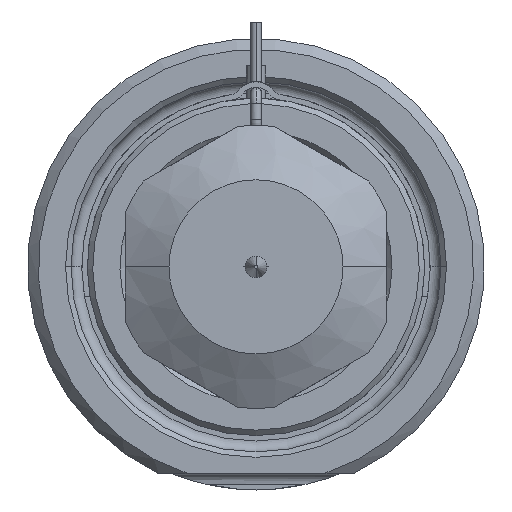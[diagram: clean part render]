
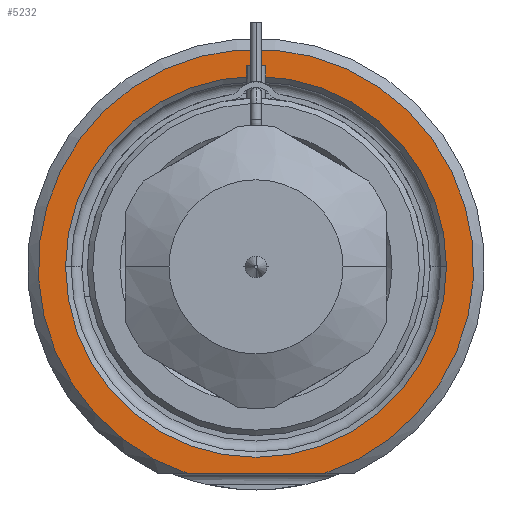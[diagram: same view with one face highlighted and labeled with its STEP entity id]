
A CAD part, front view. The second image highlights one B-rep face of the part: STEP entity #5232.
In plain terms, the highlighted planar face has unit normal (0, -1, 0).
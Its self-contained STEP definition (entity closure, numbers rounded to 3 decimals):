
#1332=CARTESIAN_POINT('',(0.,0.,0.));
#1333=DIRECTION('',(0.,-1.,0.));
#1334=DIRECTION('',(0.312,0.,-0.95));
#1335=AXIS2_PLACEMENT_3D('',#1332,#1333,#1334);
#1356=DIRECTION('',(1.,0.,0.));
#1357=VECTOR('',#1356,12.49);
#1358=CARTESIAN_POINT('',(-6.245,0.,-19.));
#1359=LINE('',#1358,#1357);
#1360=CARTESIAN_POINT('',(0.,0.,0.));
#1361=DIRECTION('',(0.,1.,0.));
#1362=DIRECTION('',(-1.,0.,0.));
#1363=AXIS2_PLACEMENT_3D('',#1360,#1361,#1362);
#1365=CARTESIAN_POINT('',(0.,0.,0.));
#1366=DIRECTION('',(0.,1.,0.));
#1367=DIRECTION('',(1.,0.,0.));
#1368=AXIS2_PLACEMENT_3D('',#1365,#1366,#1367);
#3404=CARTESIAN_POINT('',(-17.5,0.,0.));
#3405=CARTESIAN_POINT('',(17.5,0.,0.));
#3406=VERTEX_POINT('',#3404);
#3407=VERTEX_POINT('',#3405);
#3448=CARTESIAN_POINT('',(-6.245,0.,-19.));
#3449=CARTESIAN_POINT('',(6.245,0.,-19.));
#3450=VERTEX_POINT('',#3448);
#3451=VERTEX_POINT('',#3449);
#5217=CARTESIAN_POINT('',(0.,0.,0.));
#5218=DIRECTION('',(0.,-1.,0.));
#5219=DIRECTION('',(1.,0.,0.));
#5220=AXIS2_PLACEMENT_3D('',#5217,#5218,#5219);
#5221=PLANE('',#5220);
#5222=ORIENTED_EDGE('',*,*,#5149,.F.);
#5223=ORIENTED_EDGE('',*,*,#5209,.F.);
#5224=EDGE_LOOP('',(#5222,#5223));
#5225=FACE_OUTER_BOUND('',#5224,.F.);
#5227=ORIENTED_EDGE('',*,*,#5226,.F.);
#5229=ORIENTED_EDGE('',*,*,#5228,.F.);
#5230=EDGE_LOOP('',(#5227,#5229));
#5231=FACE_BOUND('',#5230,.F.);
#5232=ADVANCED_FACE('',(#5225,#5231),#5221,.T.);
#1336=CIRCLE('',#1335,20.);
#1364=CIRCLE('',#1363,17.5);
#1369=CIRCLE('',#1368,17.5);
#5149=EDGE_CURVE('',#3450,#3451,#1359,.T.);
#5209=EDGE_CURVE('',#3451,#3450,#1336,.T.);
#5226=EDGE_CURVE('',#3406,#3407,#1364,.T.);
#5228=EDGE_CURVE('',#3407,#3406,#1369,.T.);
